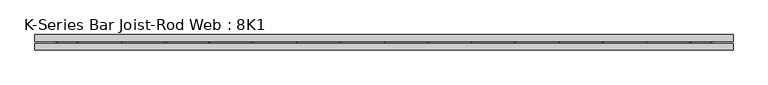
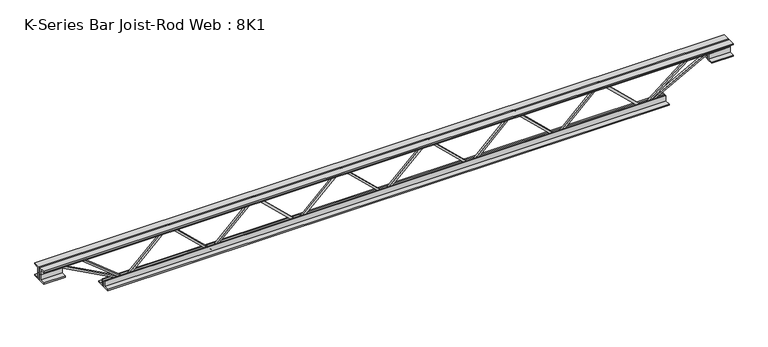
"""IFC4 building model written with IfcOpenShell, lengths in millimetres: beam geometry, K-Series Bar Joist-Rod Web : 8K1."""

from ifc_helpers import new_model, si_unit, frame, origin, place, context, project, spatial, polyline, outline, extrude, source, transform, mapped, element, save


def k_series_bar_joist_rod_web_8k1_c28a06ce(model_context):
    return source(origin(), model_context, "Body", "SweptSolid", [
        extrude(outline(polyline([(-90.4875, 411.0474986), (-100.0125, 411.0474986), (-100.0125, 416.133385), (90.4875, 615.3071343), (90.4875, 617.8353616), (-100.0125, 817.0091109), (-100.0125, 822.0949973), (-90.4875, 822.0949973), (-90.4875, 820.8308836), (100.0125, 621.6571343), (100.0125, 611.4853616), (-90.4875, 412.3116123), (-90.4875, 411.0474986)])), frame((0.0, -4.7625, 0.0), z_axis=(0.0, 1.0, 0.0), x_axis=(0.0, 0.0, 1.0)), (0.0, 0.0, 1.0), 9.525),
        extrude(outline(polyline([(-90.4875, 0.0), (-100.0125, 0.0), (-100.0125, 5.0858863), (90.4875, 204.2596356), (90.4875, 206.787863), (-100.0125, 405.9616123), (-100.0125, 411.0474986), (-90.4875, 411.0474986), (-90.4875, 409.783385), (100.0125, 210.6096356), (100.0125, 200.437863), (-90.4875, 1.2641137), (-90.4875, 0.0)])), frame((0.0, -4.7625, 0.0), z_axis=(0.0, 1.0, 0.0), x_axis=(0.0, 0.0, 1.0)), (0.0, 0.0, 1.0), 9.525),
        extrude(outline(polyline([(-90.4875, -411.0474986), (-100.0125, -411.0474986), (-100.0125, -405.9616123), (90.4875, -206.787863), (90.4875, -204.2596356), (-100.0125, -5.0858863), (-100.0125, 0.0), (-90.4875, 0.0), (-90.4875, -1.2641137), (100.0125, -200.437863), (100.0125, -210.6096356), (-90.4875, -409.783385), (-90.4875, -411.0474986)])), frame((0.0, -4.7625, 0.0), z_axis=(0.0, 1.0, 0.0), x_axis=(0.0, 0.0, 1.0)), (0.0, 0.0, 1.0), 9.525),
        extrude(outline(polyline([(-90.4875, -822.0949973), (-100.0125, -822.0949973), (-100.0125, -817.0091109), (90.4875, -617.8353616), (90.4875, -615.3071343), (-100.0125, -416.133385), (-100.0125, -411.0474986), (-90.4875, -411.0474986), (-90.4875, -412.3116123), (100.0125, -611.4853616), (100.0125, -621.6571343), (-90.4875, -820.8308836), (-90.4875, -822.0949973)])), frame((0.0, -4.7625, 0.0), z_axis=(0.0, 1.0, 0.0), x_axis=(0.0, 0.0, 1.0)), (0.0, 0.0, 1.0), 9.525),
        extrude(outline(polyline([(-90.4875, 822.0949973), (-100.0125, 822.0949973), (-100.0125, 827.1808836), (90.4875, 1026.3546329), (90.4875, 1028.8828602), (-100.0125, 1228.0566096), (-100.0125, 1233.1424959), (-90.4875, 1233.1424959), (-90.4875, 1231.8783822), (100.0125, 1032.7046329), (100.0125, 1022.5328602), (-90.4875, 823.3591109), (-90.4875, 822.0949973)])), frame((0.0, -4.7625, 0.0), z_axis=(0.0, 1.0, 0.0), x_axis=(0.0, 0.0, 1.0)), (0.0, 0.0, 1.0), 9.525),
        extrude(outline(polyline([(-90.4875, -1233.1424959), (-100.0125, -1233.1424959), (-100.0125, -1228.0566096), (90.4875, -1028.8828602), (90.4875, -1026.3546329), (-100.0125, -827.1808836), (-100.0125, -822.0949973), (-90.4875, -822.0949973), (-90.4875, -823.3591109), (100.0125, -1022.5328602), (100.0125, -1032.7046329), (-90.4875, -1231.8783822), (-90.4875, -1233.1424959)])), frame((0.0, -4.7625, 0.0), z_axis=(0.0, 1.0, 0.0), x_axis=(0.0, 0.0, 1.0)), (0.0, 0.0, 1.0), 9.525),
        extrude(outline(polyline([(4.7625, 101.6), (36.5125, 101.6), (36.5125, 95.25), (11.1125, 95.25), (11.1125, 69.85), (4.7625, 69.85), (4.7625, 101.6)])), frame((-1639.5424959, 0.0, 0.0), z_axis=(1.0, 0.0, 0.0), x_axis=(0.0, 1.0, 0.0)), (0.0, 0.0, 1.0), 3279.0849918),
        extrude(outline(polyline([(-4.7625, 101.6), (-4.7625, 69.85), (-11.1125, 69.85), (-11.1125, 95.25), (-36.5125, 95.25), (-36.5125, 101.6), (-4.7625, 101.6)])), frame((-1639.5424959, 0.0, 0.0), z_axis=(1.0, 0.0, 0.0), x_axis=(0.0, 1.0, 0.0)), (0.0, 0.0, 1.0), 3279.0849918),
        extrude(outline(polyline([(-4.7625, 38.1), (-36.5125, 38.1), (-36.5125, 44.45), (-11.1125, 44.45), (-11.1125, 69.85), (-4.7625, 69.85), (-4.7625, 38.1)])), frame((-1639.5424959, 0.0, 0.0), z_axis=(1.0, 0.0, 0.0), x_axis=(0.0, 1.0, 0.0)), (0.0, 0.0, 1.0), 101.6),
        extrude(outline(polyline([(36.5125, 38.1), (4.7625, 38.1), (4.7625, 69.85), (11.1125, 69.85), (11.1125, 44.45), (36.5125, 44.45), (36.5125, 38.1)])), frame((-1639.5424959, 0.0, 0.0), z_axis=(1.0, 0.0, 0.0), x_axis=(0.0, 1.0, 0.0)), (0.0, 0.0, 1.0), 101.6),
        extrude(outline(polyline([(4.7625, 38.1), (4.7625, 69.85), (11.1125, 69.85), (11.1125, 44.45), (36.5125, 44.45), (36.5125, 38.1), (4.7625, 38.1)])), frame((1537.9424959, 0.0, 0.0), z_axis=(1.0, 0.0, 0.0), x_axis=(0.0, 1.0, 0.0)), (0.0, 0.0, 1.0), 101.6),
        extrude(outline(polyline([(-4.7625, 38.1), (-36.5125, 38.1), (-36.5125, 44.45), (-11.1125, 44.45), (-11.1125, 69.85), (-4.7625, 69.85), (-4.7625, 38.1)])), frame((1537.9424959, 0.0, 0.0), z_axis=(1.0, 0.0, 0.0), x_axis=(0.0, 1.0, 0.0)), (0.0, 0.0, 1.0), 101.6),
        extrude(outline(polyline([(4.7625, -101.6), (4.7625, -69.85), (11.1125, -69.85), (11.1125, -95.25), (36.5125, -95.25), (36.5125, -101.6), (4.7625, -101.6)])), frame((-1334.7424959, 0.0, 0.0), z_axis=(1.0, 0.0, 0.0), x_axis=(0.0, 1.0, 0.0)), (0.0, 0.0, 1.0), 2669.4849918),
        extrude(outline(polyline([(-4.7625, -101.6), (-36.5125, -101.6), (-36.5125, -95.25), (-11.1125, -95.25), (-11.1125, -69.85), (-4.7625, -69.85), (-4.7625, -101.6)])), frame((-1334.7424959, 0.0, 0.0), z_axis=(1.0, 0.0, 0.0), x_axis=(0.0, 1.0, 0.0)), (0.0, 0.0, 1.0), 2669.4849918),
        extrude(outline(polyline([(0.0, -9.525), (0.0, 0.0), (346.6425392, 0.0), (346.6425392, -9.525), (0.0, -9.525)])), frame((-1540.2107944, 4.7625, 65.662372), z_axis=(0.47628314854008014, 0.0, 0.8792919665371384), x_axis=(0.8792919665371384, 0.0, -0.47628314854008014)), (0.0, 0.0, 1.0), 9.525),
        extrude(outline(polyline([(0.0, -9.525), (0.0, 0.0), (263.6247741, 0.0), (263.6247741, -9.525), (0.0, -9.525)])), frame((-1441.6488509, 4.7625, 66.1371211), z_axis=(0.6262689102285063, 0.0, 0.7796071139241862), x_axis=(0.7796071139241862, 0.0, -0.6262689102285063)), (0.0, 0.0, 1.0), 9.525),
        extrude(outline(polyline([(0.0, -9.525), (0.0, 0.0), (346.6425392, 0.0), (346.6425392, -9.525), (0.0, -9.525)])), frame((1540.2107944, -4.7625, 65.662372), z_axis=(-0.47628314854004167, 0.0, 0.8792919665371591), x_axis=(-0.8792919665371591, 0.0, -0.47628314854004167)), (0.0, 0.0, 1.0), 9.525),
        extrude(outline(polyline([(0.0, -9.525), (0.0, 0.0), (263.6247741, 0.0), (263.6247741, -9.525), (0.0, -9.525)])), frame((1441.6488509, -4.7625, 66.1371211), z_axis=(-0.6262689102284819, 0.0, 0.779607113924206), x_axis=(-0.779607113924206, 0.0, -0.6262689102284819)), (0.0, 0.0, 1.0), 9.525),
    ])


if __name__ == "__main__":
    model = new_model("IFC4")
    model_context = context("Model", 3, world=origin())
    ifc_project = project(units=[si_unit("LENGTHUNIT", "METRE", prefix="MILLI")], contexts=[model_context])
    site = spatial("IfcSite", under=ifc_project)
    building = spatial("IfcBuilding", under=site)
    placement = place(None, origin())
    k_series_bar_joist_rod_web_8k1_shape = k_series_bar_joist_rod_web_8k1_c28a06ce(model_context)
    element("IfcBeam", 1, ObjectType="K-Series Bar Joist-Rod Web : 8K1", at=placement, inside=building, context=model_context, shape_type="MappedRepresentation", body=[
        mapped(k_series_bar_joist_rod_web_8k1_shape, transform((0.0, 0.0, 0.0), x_axis=(1.0, 0.0, 0.0), y_axis=(0.0, 1.0, 0.0), z_axis=(0.0, 0.0, 1.0))),
    ])
    save(model, "model.ifc")
